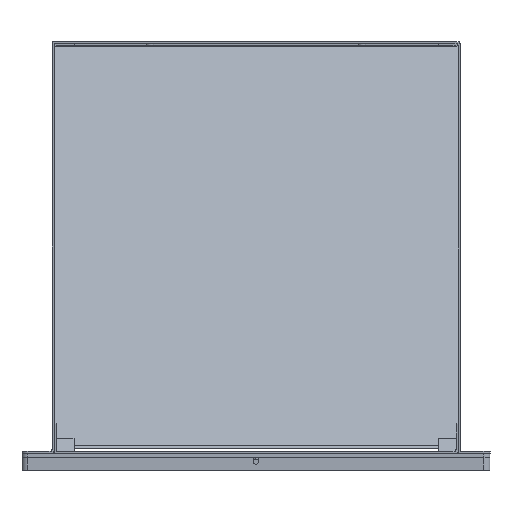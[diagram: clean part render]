
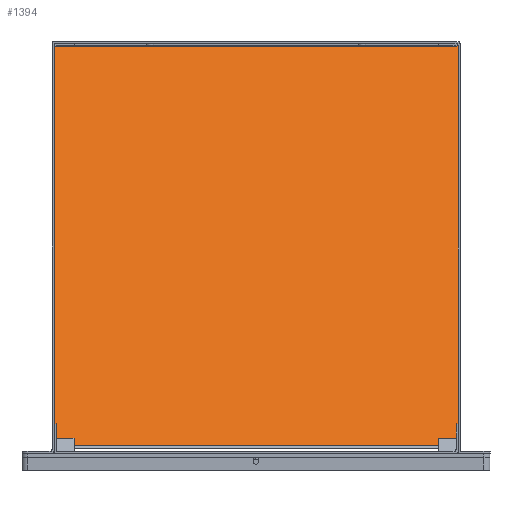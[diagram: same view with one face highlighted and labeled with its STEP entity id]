
A CAD part, front view. The second image highlights one B-rep face of the part: STEP entity #1394.
In plain terms, the highlighted planar face has unit normal (0, -0.707, 0.707).
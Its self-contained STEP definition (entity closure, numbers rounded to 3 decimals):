
#358 = LINE ( 'NONE', #9947, #359 ) ;
#359 = VECTOR ( 'NONE', #9939, 1000. ) ;
#643 = VECTOR ( 'NONE', #10024, 1000. ) ;
#647 = LINE ( 'NONE', #10032, #643 ) ;
#650 = VECTOR ( 'NONE', #10001, 1000. ) ;
#653 = LINE ( 'NONE', #10022, #679 ) ;
#678 = LINE ( 'NONE', #9999, #650 ) ;
#679 = VECTOR ( 'NONE', #10028, 1000. ) ;
#1394 = ADVANCED_FACE ( 'NONE', ( #3982 ), #7987, .T. ) ;
#3982 = FACE_OUTER_BOUND ( 'NONE', #7745, .T. ) ;
#4734 = EDGE_CURVE ( 'NONE', #7345, #7355, #358, .T. ) ;
#4757 = EDGE_CURVE ( 'NONE', #7355, #7305, #678, .T. ) ;
#4765 = EDGE_CURVE ( 'NONE', #7281, #7345, #653, .T. ) ;
#4766 = EDGE_CURVE ( 'NONE', #7305, #7281, #647, .T. ) ;
#5166 = AXIS2_PLACEMENT_3D ( 'NONE', #7999, #8009, #8044 ) ;
#6116 = ORIENTED_EDGE ( 'NONE', *, *, #4765, .F. ) ;
#6198 = ORIENTED_EDGE ( 'NONE', *, *, #4757, .F. ) ;
#6210 = ORIENTED_EDGE ( 'NONE', *, *, #4734, .F. ) ;
#6218 = ORIENTED_EDGE ( 'NONE', *, *, #4766, .F. ) ;
#7281 = VERTEX_POINT ( 'NONE', #10209 ) ;
#7305 = VERTEX_POINT ( 'NONE', #10207 ) ;
#7345 = VERTEX_POINT ( 'NONE', #10293 ) ;
#7355 = VERTEX_POINT ( 'NONE', #10307 ) ;
#7745 = EDGE_LOOP ( 'NONE', ( #6116, #6218, #6198, #6210 ) ) ;
#7987 = PLANE ( 'NONE',  #5166 ) ;
#7999 = CARTESIAN_POINT ( 'NONE',  ( 0.015, -0.174, 112.498 ) ) ;
#8009 = DIRECTION ( 'NONE',  ( 0., -0.707, 0.707 ) ) ;
#8044 = DIRECTION ( 'NONE',  ( 0., -0.707, -0.707 ) ) ;
#9939 = DIRECTION ( 'NONE',  ( -1., 0., 0. ) ) ;
#9947 = CARTESIAN_POINT ( 'NONE',  ( 0.015, -99.876, 12.796 ) ) ;
#9999 = CARTESIAN_POINT ( 'NONE',  ( -100.985, -99.876, 12.796 ) ) ;
#10001 = DIRECTION ( 'NONE',  ( 0., 0.707, 0.707 ) ) ;
#10022 = CARTESIAN_POINT ( 'NONE',  ( 101.015, 99.528, 212.2 ) ) ;
#10024 = DIRECTION ( 'NONE',  ( 1., 0., 0. ) ) ;
#10028 = DIRECTION ( 'NONE',  ( 0., -0.707, -0.707 ) ) ;
#10032 = CARTESIAN_POINT ( 'NONE',  ( 0.015, 99.528, 212.2 ) ) ;
#10207 = CARTESIAN_POINT ( 'NONE',  ( -100.985, 99.528, 212.2 ) ) ;
#10209 = CARTESIAN_POINT ( 'NONE',  ( 101.015, 99.528, 212.2 ) ) ;
#10293 = CARTESIAN_POINT ( 'NONE',  ( 101.015, -99.876, 12.796 ) ) ;
#10307 = CARTESIAN_POINT ( 'NONE',  ( -100.985, -99.876, 12.796 ) ) ;
